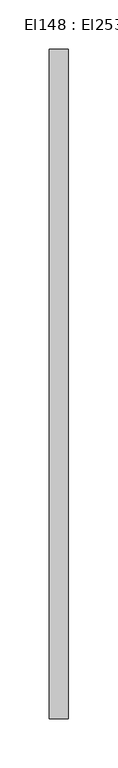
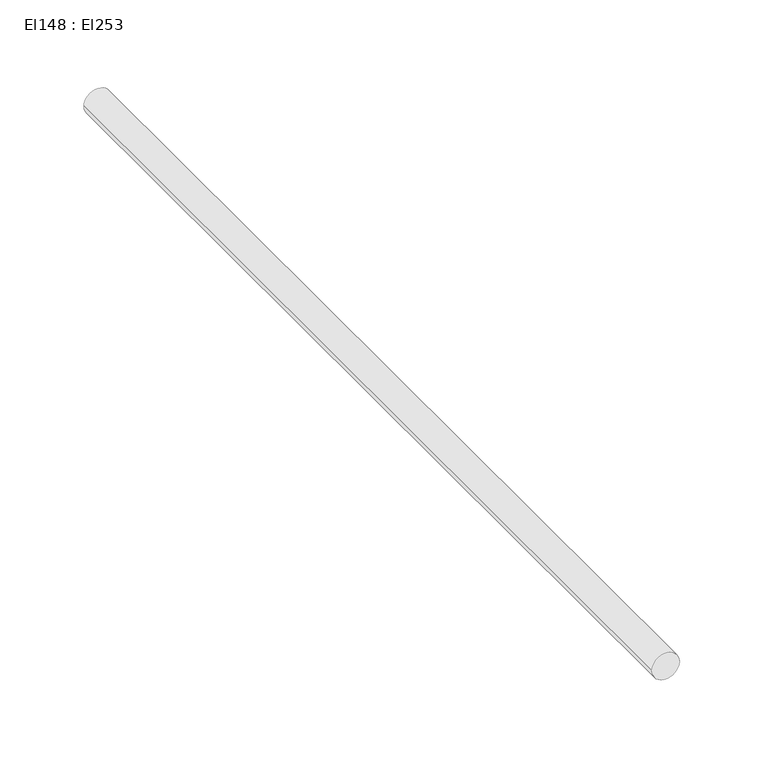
"""IFC4 building model written with IfcOpenShell, lengths in millimetres: cable carrier segment geometry, El148 : El253."""

from ifc_helpers import new_model, si_unit, point, frame, frame_2d, origin, place, context, project, spatial, circle_curve, trimmed, segment, composite_curve, outline, extrude, source, transform, mapped, element, save


def el148_el253_b73c1a1b(model_context):
    return source(origin(), model_context, "Body", "SweptSolid", [
        extrude(outline(composite_curve([segment(trimmed(circle_curve(frame_2d((2700.0, 13444.4746511)), 9.5), [point((2700.0, 13434.9746511))], [point((2700.0, 13453.9746511))], False, "CARTESIAN"), True, "CONTINUOUS"), segment(trimmed(circle_curve(frame_2d((2700.0, 13444.4746511)), 9.5), [point((2700.0, 13453.9746511))], [point((2700.0, 13434.9746511))], False, "CARTESIAN"), True, "CONTINUOUS")], self_intersect=False)), frame((0.0, 15647.0691745, 0.0), z_axis=(0.0, 1.0, 0.0), x_axis=(0.0, 0.0, 1.0)), (0.0, 0.0, 1.0), 675.886),
    ])


if __name__ == "__main__":
    model = new_model("IFC4")
    model_context = context("Model", 3, world=origin())
    ifc_project = project(units=[si_unit("LENGTHUNIT", "METRE", prefix="MILLI")], contexts=[model_context])
    site = spatial("IfcSite", under=ifc_project)
    building = spatial("IfcBuilding", under=site)
    placement = place(None, origin())
    el148_el253_shape = el148_el253_b73c1a1b(model_context)
    element("IfcCableCarrierSegment", 1, ObjectType="El148 : El253", at=placement, inside=building, context=model_context, shape_type="MappedRepresentation", body=[
        mapped(el148_el253_shape, transform((0.0, 0.0, 0.0), x_axis=(1.0, 0.0, 0.0), y_axis=(0.0, 1.0, 0.0), z_axis=(0.0, 0.0, 1.0))),
    ])
    save(model, "model.ifc")
